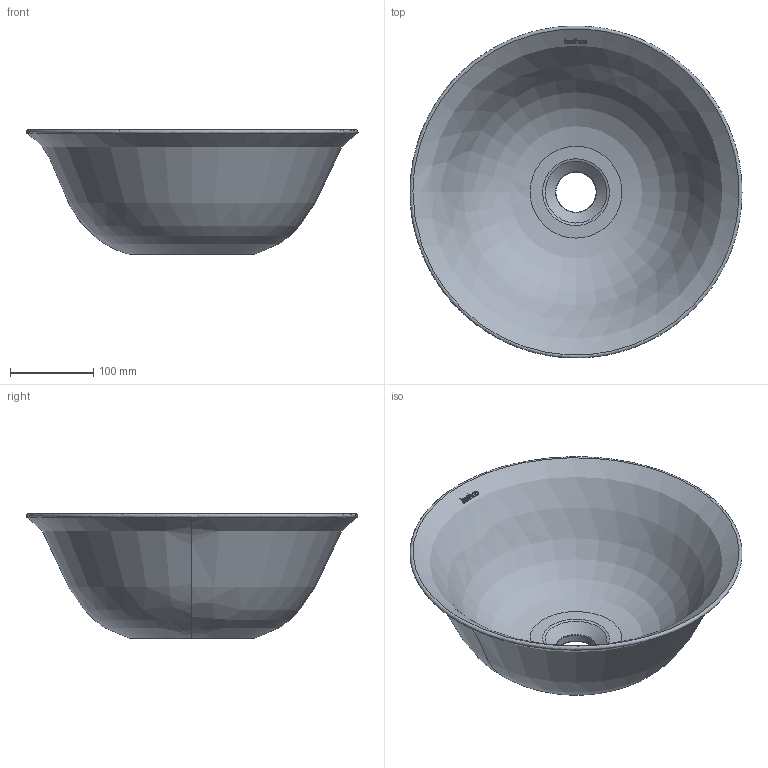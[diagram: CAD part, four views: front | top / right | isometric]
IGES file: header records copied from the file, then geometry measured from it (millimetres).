
Global section: file name: D:\Renovando Conceptos\Trabajos Varios\BathCo\47 Biblioteca Lavabos 3D\4062 New Nordic\4062_New Nordic.igs; native system: Rhinoceros ( Feb 26 2015 ); preprocessor: Trout Lake IGES 012 Feb 26 2015; date: 200611.064543; units: millimetre
Bounding box: 399.99 x 399.97 x 150 mm (x, y, z)
Surface area: 384928.4 mm2 (no closed solid volume)
Topology: 0 solids, 0 shells, 77 faces, 813 edges, 786 vertices
Faces by surface type: bspline 77
